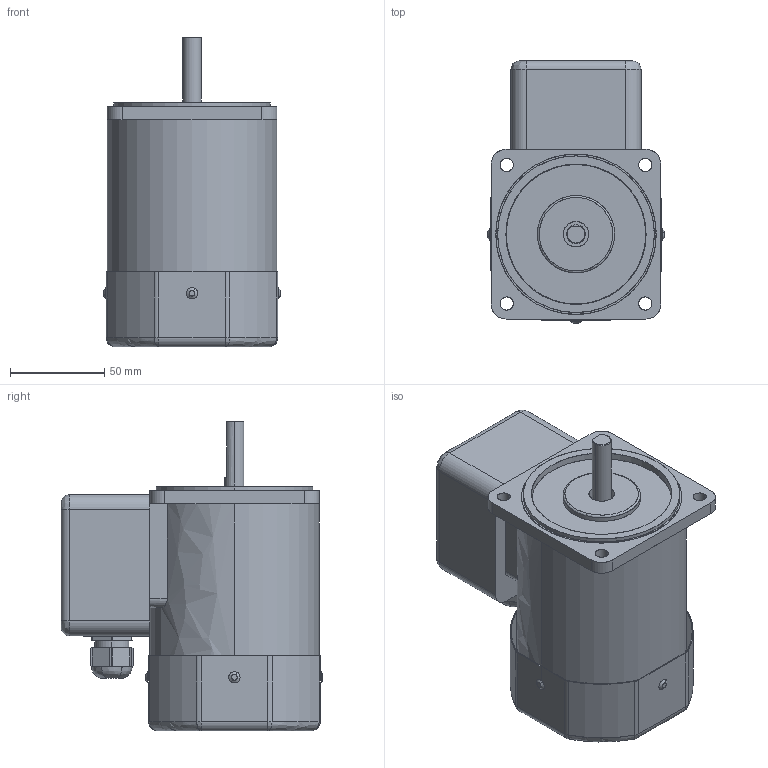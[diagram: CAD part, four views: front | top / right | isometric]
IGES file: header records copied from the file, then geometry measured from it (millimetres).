
Start section: SolidWorks IGES file using analytic representation for surfaces
Bounding box: 94 x 139 x 164.5 mm (x, y, z)
Surface area: 115959.9 mm2 (no closed solid volume)
Topology: 0 solids, 0 shells, 209 faces, 3021 edges, 3013 vertices
Faces by surface type: bspline 114, revolution 95
